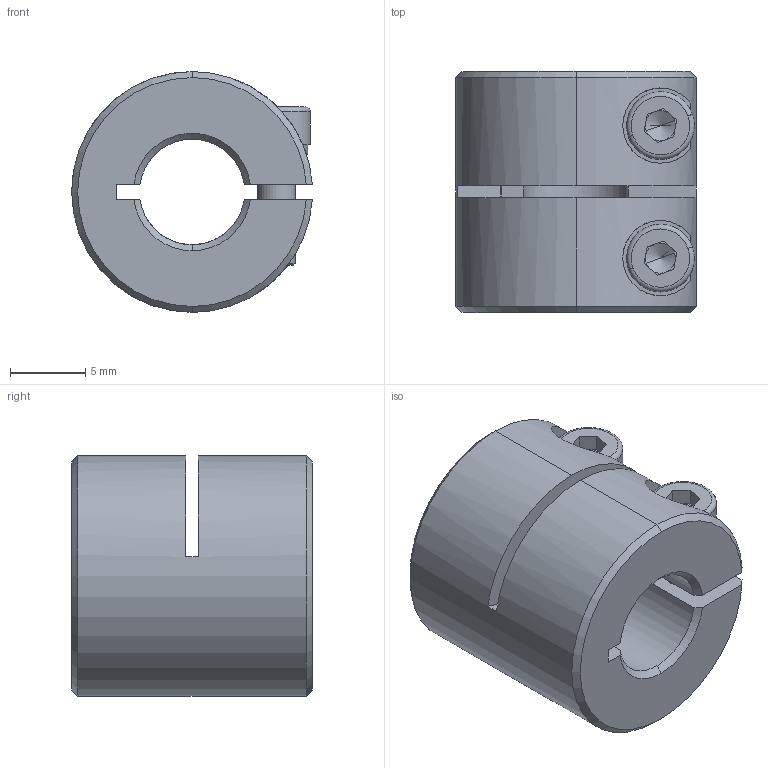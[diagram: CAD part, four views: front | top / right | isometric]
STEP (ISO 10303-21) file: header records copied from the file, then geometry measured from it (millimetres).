
FILE_DESCRIPTION (( 'STEP AP203' ), '1' );
FILE_NAME ('LL-B-D16L16-7-7.STEP', '2021-11-03T02:52:42', ( '' ), ( '' ), 'SwSTEP 2.0', 'SolidWorks 2018', '' );
FILE_SCHEMA (( 'CONFIG_CONTROL_DESIGN' ));
Length unit declared in the file: millimetre
Products named in the file (1): LL-B-D16L16-7-7
Bounding box: 15.98 x 16 x 16 mm (x, y, z)
Volume: 2399.9 mm3; surface area: 1993 mm2
Topology: 1 solids, 1 shells, 116 faces, 299 edges, 187 vertices
Faces by surface type: plane 50, cylinder 42, cone 20, torus 4
Entity records: 3787 total; most frequent: CARTESIAN_POINT 851, DIRECTION 624, ORIENTED_EDGE 590, EDGE_CURVE 295, AXIS2_PLACEMENT_3D 244, VERTEX_POINT 187, VECTOR 136, LINE 136
